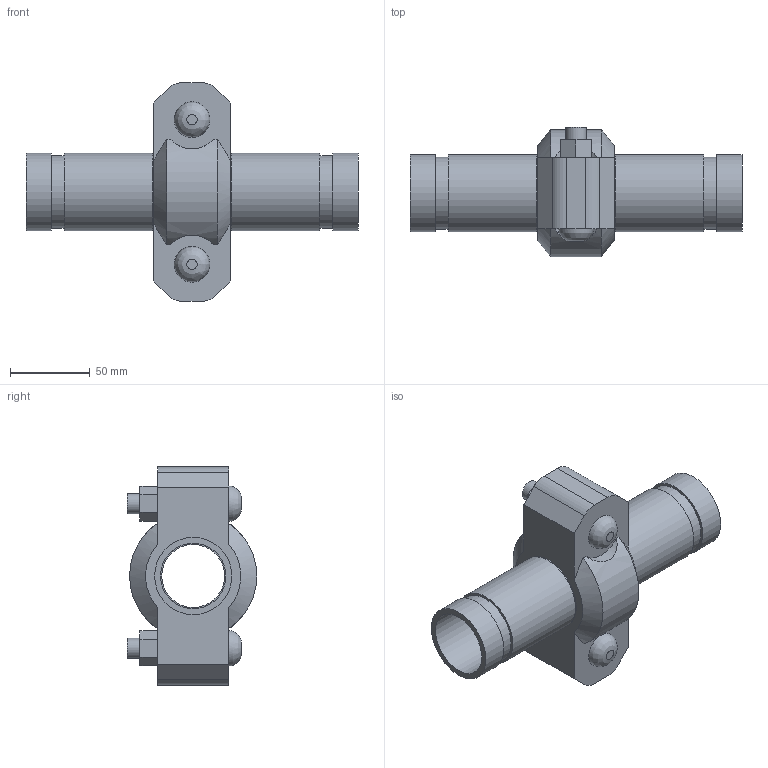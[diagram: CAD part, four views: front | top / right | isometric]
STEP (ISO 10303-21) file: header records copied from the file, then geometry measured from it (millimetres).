
FILE_DESCRIPTION(/* description */ ('VIC EXPANSION JOINT 1 COUPLING EXPANDED STYLE 155 (OGS)','CAx-IF Rec.Pracs.---Representation and Presentation of Product Manufacturing Information (PMI)---4.0---2014-10-13'),/* implementation_level */ '2;1');
FILE_NAME(/* name */ 'C:\Users\kkamble\AppData\Roaming\Autodesk\ApplicationPlugins\Victaulic.Temp\A694\Victaulic_IPS_Expansion Joint_Expanded_1 Coupling_Style 155 (OGS)_1.5 (40).stp',/* time_stamp */ '2021-06-26T23:47:16+02:00',/* author */ ('kkamble'),/* organization */ ('Victaulic'),/* preprocessor_version */ 'ST-DEVELOPER v17.2',/* originating_system */ 'Autodesk Inventor 2019',/* authorisation */ '');
FILE_SCHEMA (('AP242_MANAGED_MODEL_BASED_3D_ENGINEERING_MIM_LF { 1 0 10303 442 1 1 4 }'));
Length unit declared in the file: inch
Products named in the file (3): 155-01.5; Nipple-01.5; 077-01.5
Assembly tree (3 placements, depth 2):
  155-01.5
    Nipple-01.5  x2
    077-01.5
Bounding box: 207.52 x 81.03 x 136.65 mm (x, y, z)
Volume: 362983.4 mm3; surface area: 107191.2 mm2
Topology: 3 solids, 5 shells, 85 faces, 205 edges, 146 vertices
Faces by surface type: plane 48, cylinder 31, cone 4, bspline 2
Full cylindrical faces by diameter (mm): 12.7 x4, 14.605 x2, 39.37 x1, 40.894 x2, 45.085 x4, 48.26 x8
Entity records: 2517 total; most frequent: CARTESIAN_POINT 528, DIRECTION 389, ORIENTED_EDGE 350, EDGE_CURVE 175, AXIS2_PLACEMENT_3D 149, VERTEX_POINT 122, EDGE_LOOP 93, LINE 91
